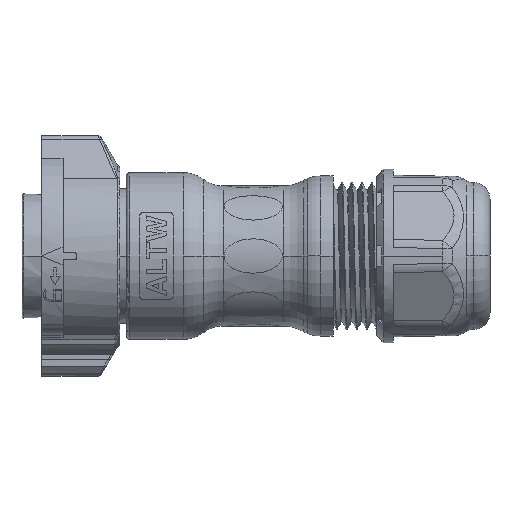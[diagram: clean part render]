
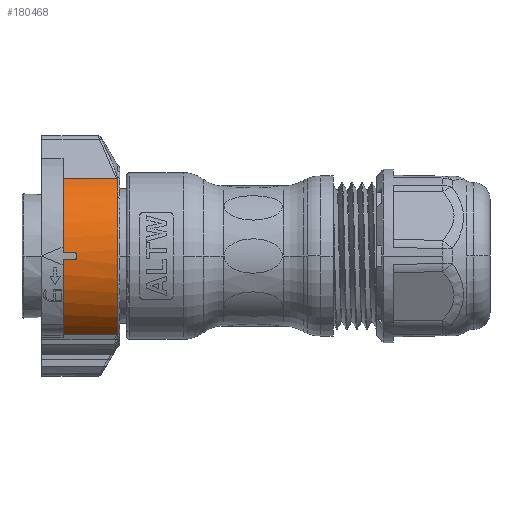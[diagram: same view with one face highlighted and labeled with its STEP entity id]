
A CAD part, front view. The second image highlights one B-rep face of the part: STEP entity #180468.
In plain terms, the highlighted cylindrical face has radius 13.55 mm (diameter 27.1 mm), a partial arc.
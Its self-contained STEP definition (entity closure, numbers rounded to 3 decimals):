
#60754=CARTESIAN_POINT('',(25.783,-13.549,
-0.186));
#60755=CARTESIAN_POINT('',(25.783,-13.55,
-0.062));
#60756=CARTESIAN_POINT('',(25.783,-13.55,
0.062));
#60757=CARTESIAN_POINT('',(25.783,-13.549,
0.186));
#60759=DIRECTION('',(-1.,0.,0.));
#60760=VECTOR('',#60759,1.686);
#60761=CARTESIAN_POINT('',(25.384,-13.537,
0.586));
#60762=LINE('',#60761,#60760);
#60763=DIRECTION('',(-1.,0.,0.));
#60764=VECTOR('',#60763,8.005);
#60765=CARTESIAN_POINT('',(31.703,-7.03,
11.584));
#60766=LINE('',#60765,#60764);
#60767=CARTESIAN_POINT('',(31.898,0.,0.));
#60768=DIRECTION('',(1.,0.,0.));
#60769=DIRECTION('',(0.,-0.497,0.868));
#60770=AXIS2_PLACEMENT_3D('',#60767,#60768,#60769);
#60772=DIRECTION('',(-1.,0.,0.));
#60773=VECTOR('',#60772,8.003);
#60774=CARTESIAN_POINT('',(31.701,-6.774,
-11.735));
#60775=LINE('',#60774,#60773);
#60776=DIRECTION('',(-1.,0.,0.));
#60777=VECTOR('',#60776,1.686);
#60778=CARTESIAN_POINT('',(25.384,-13.537,
-0.586));
#60779=LINE('',#60778,#60777);
#60788=CARTESIAN_POINT('',(25.783,-13.549,
-0.186));
#60789=CARTESIAN_POINT('',(25.783,-13.548,
-0.207));
#60790=CARTESIAN_POINT('',(25.78,-13.548,
-0.249));
#60791=CARTESIAN_POINT('',(25.765,-13.546,
-0.31));
#60792=CARTESIAN_POINT('',(25.741,-13.545,
-0.368));
#60793=CARTESIAN_POINT('',(25.708,-13.543,
-0.422));
#60794=CARTESIAN_POINT('',(25.667,-13.542,
-0.47));
#60795=CARTESIAN_POINT('',(25.619,-13.54,
-0.511));
#60796=CARTESIAN_POINT('',(25.566,-13.539,
-0.544));
#60797=CARTESIAN_POINT('',(25.508,-13.538,
-0.568));
#60798=CARTESIAN_POINT('',(25.447,-13.537,
-0.583));
#60799=CARTESIAN_POINT('',(25.405,-13.537,
-0.586));
#60800=CARTESIAN_POINT('',(25.384,-13.537,
-0.586));
#60810=CARTESIAN_POINT('',(23.698,0.,0.));
#60811=DIRECTION('',(1.,0.,0.));
#60812=DIRECTION('',(0.,-0.999,-0.043));
#60813=AXIS2_PLACEMENT_3D('',#60810,#60811,#60812);
#60842=CARTESIAN_POINT('',(31.701,-6.774,
-11.735));
#60848=CARTESIAN_POINT('',(31.701,-6.774,
-11.735));
#60849=CARTESIAN_POINT('',(31.711,-6.774,
-11.735));
#60850=CARTESIAN_POINT('',(31.732,-6.772,
-11.736));
#60851=CARTESIAN_POINT('',(31.76,-6.765,
-11.741));
#60852=CARTESIAN_POINT('',(31.787,-6.752,
-11.748));
#60853=CARTESIAN_POINT('',(31.813,-6.733,
-11.759));
#60854=CARTESIAN_POINT('',(31.836,-6.707,
-11.773));
#60855=CARTESIAN_POINT('',(31.857,-6.675,
-11.792));
#60856=CARTESIAN_POINT('',(31.874,-6.637,
-11.813));
#60857=CARTESIAN_POINT('',(31.887,-6.592,
-11.839));
#60858=CARTESIAN_POINT('',(31.896,-6.54,
-11.867));
#60859=CARTESIAN_POINT('',(31.898,-6.502,
-11.888));
#60860=CARTESIAN_POINT('',(31.898,-6.481,
-11.899));
#61121=CARTESIAN_POINT('',(23.698,0.,0.));
#61122=DIRECTION('',(1.,0.,0.));
#61123=DIRECTION('',(0.,-0.519,0.855));
#61124=AXIS2_PLACEMENT_3D('',#61121,#61122,#61123);
#61130=CARTESIAN_POINT('',(25.384,-13.537,
0.586));
#61131=CARTESIAN_POINT('',(25.405,-13.537,
0.586));
#61132=CARTESIAN_POINT('',(25.447,-13.537,
0.583));
#61133=CARTESIAN_POINT('',(25.508,-13.538,
0.568));
#61134=CARTESIAN_POINT('',(25.566,-13.539,
0.544));
#61135=CARTESIAN_POINT('',(25.619,-13.54,
0.511));
#61136=CARTESIAN_POINT('',(25.667,-13.542,
0.47));
#61137=CARTESIAN_POINT('',(25.708,-13.543,
0.422));
#61138=CARTESIAN_POINT('',(25.741,-13.545,
0.368));
#61139=CARTESIAN_POINT('',(25.765,-13.546,
0.31));
#61140=CARTESIAN_POINT('',(25.78,-13.548,
0.249));
#61141=CARTESIAN_POINT('',(25.783,-13.548,
0.207));
#61142=CARTESIAN_POINT('',(25.783,-13.549,
0.186));
#62485=CARTESIAN_POINT('',(31.898,-6.732,
11.76));
#62486=CARTESIAN_POINT('',(31.898,-6.752,
11.748));
#62487=CARTESIAN_POINT('',(31.896,-6.792,
11.725));
#62488=CARTESIAN_POINT('',(31.887,-6.844,
11.695));
#62489=CARTESIAN_POINT('',(31.875,-6.889,
11.668));
#62490=CARTESIAN_POINT('',(31.858,-6.929,
11.645));
#62491=CARTESIAN_POINT('',(31.837,-6.962,
11.625));
#62492=CARTESIAN_POINT('',(31.813,-6.988,
11.609));
#62493=CARTESIAN_POINT('',(31.788,-7.007,
11.598));
#62494=CARTESIAN_POINT('',(31.761,-7.02,
11.59));
#62495=CARTESIAN_POINT('',(31.733,-7.028,
11.585));
#62496=CARTESIAN_POINT('',(31.713,-7.03,
11.584));
#62497=CARTESIAN_POINT('',(31.703,-7.03,
11.584));
#83325=CARTESIAN_POINT('',(23.698,-7.03,
11.584));
#83327=VERTEX_POINT('',#83325);
#83384=CARTESIAN_POINT('',(31.898,-6.732,
11.76));
#83386=VERTEX_POINT('',#83384);
#83391=CARTESIAN_POINT('',(31.898,-6.481,
-11.899));
#83393=VERTEX_POINT('',#83391);
#83394=CARTESIAN_POINT('',(31.703,-7.03,
11.584));
#83395=VERTEX_POINT('',#83394);
#83506=CARTESIAN_POINT('',(23.698,-6.774,
-11.735));
#83507=VERTEX_POINT('',#83506);
#83520=VERTEX_POINT('',#60842);
#83547=CARTESIAN_POINT('',(23.698,-13.537,
0.586));
#83548=VERTEX_POINT('',#83547);
#83549=CARTESIAN_POINT('',(23.698,-13.537,
-0.586));
#83550=VERTEX_POINT('',#83549);
#84230=CARTESIAN_POINT('',(25.384,-13.537,
-0.586));
#84232=VERTEX_POINT('',#84230);
#84234=CARTESIAN_POINT('',(25.783,-13.549,
-0.186));
#84235=VERTEX_POINT('',#84234);
#84237=CARTESIAN_POINT('',(25.783,-13.549,
0.186));
#84239=VERTEX_POINT('',#84237);
#84241=CARTESIAN_POINT('',(25.384,-13.537,
0.586));
#84242=VERTEX_POINT('',#84241);
#180439=CARTESIAN_POINT('',(32.783,0.,0.));
#180440=DIRECTION('',(-1.,0.,0.));
#180441=DIRECTION('',(0.,0.,1.));
#180442=AXIS2_PLACEMENT_3D('',#180439,#180440,#180441);
#180443=CYLINDRICAL_SURFACE('',#180442,13.55);
#180445=ORIENTED_EDGE('',*,*,#180444,.T.);
#180447=ORIENTED_EDGE('',*,*,#180446,.F.);
#180449=ORIENTED_EDGE('',*,*,#180448,.T.);
#180451=ORIENTED_EDGE('',*,*,#180450,.F.);
#180452=ORIENTED_EDGE('',*,*,#180425,.F.);
#180454=ORIENTED_EDGE('',*,*,#180453,.F.);
#180455=ORIENTED_EDGE('',*,*,#179026,.T.);
#180457=ORIENTED_EDGE('',*,*,#180456,.F.);
#180459=ORIENTED_EDGE('',*,*,#180458,.T.);
#180461=ORIENTED_EDGE('',*,*,#180460,.F.);
#180463=ORIENTED_EDGE('',*,*,#180462,.F.);
#180465=ORIENTED_EDGE('',*,*,#180464,.F.);
#180466=EDGE_LOOP('',(#180445,#180447,#180449,#180451,#180452,#180454,#180455,
#180457,#180459,#180461,#180463,#180465));
#180467=FACE_OUTER_BOUND('',#180466,.F.);
#180468=ADVANCED_FACE('',(#180467),#180443,.T.);
#60758=B_SPLINE_CURVE_WITH_KNOTS('',3,(#60754,#60755,#60756,#60757),
.UNSPECIFIED.,.F.,.F.,(4,4),(0.,1.),.UNSPECIFIED.);
#60771=CIRCLE('',#60770,13.55);
#60801=B_SPLINE_CURVE_WITH_KNOTS('',3,(#60788,#60789,#60790,#60791,#60792,
#60793,#60794,#60795,#60796,#60797,#60798,#60799,#60800),.UNSPECIFIED.,.F.,.F.,(
4,1,1,1,1,1,1,1,1,1,4),(0.,0.1,0.2,0.3,0.4,0.5,0.6,0.7,0.8,
0.9,1.),.UNSPECIFIED.);
#60814=CIRCLE('',#60813,13.55);
#60861=B_SPLINE_CURVE_WITH_KNOTS('',3,(#60848,#60849,#60850,#60851,#60852,
#60853,#60854,#60855,#60856,#60857,#60858,#60859,#60860),.UNSPECIFIED.,.F.,.F.,(
4,1,1,1,1,1,1,1,1,1,4),(0.,0.1,0.2,0.3,0.4,0.5,0.6,0.7,0.8,
0.9,1.),.UNSPECIFIED.);
#61125=CIRCLE('',#61124,13.55);
#61143=B_SPLINE_CURVE_WITH_KNOTS('',3,(#61130,#61131,#61132,#61133,#61134,
#61135,#61136,#61137,#61138,#61139,#61140,#61141,#61142),.UNSPECIFIED.,.F.,.F.,(
4,1,1,1,1,1,1,1,1,1,4),(0.,0.1,0.2,0.3,0.4,0.5,0.6,0.7,0.8,
0.9,1.),.UNSPECIFIED.);
#62498=B_SPLINE_CURVE_WITH_KNOTS('',3,(#62485,#62486,#62487,#62488,#62489,
#62490,#62491,#62492,#62493,#62494,#62495,#62496,#62497),.UNSPECIFIED.,.F.,.F.,(
4,1,1,1,1,1,1,1,1,1,4),(0.,0.1,0.2,0.3,0.4,0.5,0.6,0.7,0.8,
0.9,1.),.UNSPECIFIED.);
#179026=EDGE_CURVE('',#83386,#83393,#60771,.T.);
#180425=EDGE_CURVE('',#83395,#83327,#60766,.T.);
#180444=EDGE_CURVE('',#84235,#84239,#60758,.T.);
#180446=EDGE_CURVE('',#84242,#84239,#61143,.T.);
#180448=EDGE_CURVE('',#84242,#83548,#60762,.T.);
#180450=EDGE_CURVE('',#83327,#83548,#61125,.T.);
#180453=EDGE_CURVE('',#83386,#83395,#62498,.T.);
#180456=EDGE_CURVE('',#83520,#83393,#60861,.T.);
#180458=EDGE_CURVE('',#83520,#83507,#60775,.T.);
#180460=EDGE_CURVE('',#83550,#83507,#60814,.T.);
#180462=EDGE_CURVE('',#84232,#83550,#60779,.T.);
#180464=EDGE_CURVE('',#84235,#84232,#60801,.T.);
